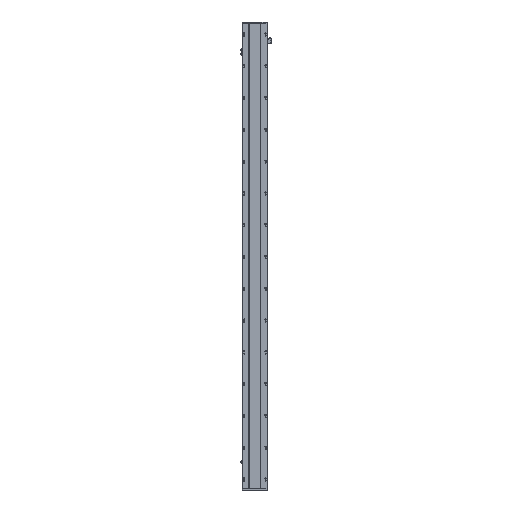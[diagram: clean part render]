
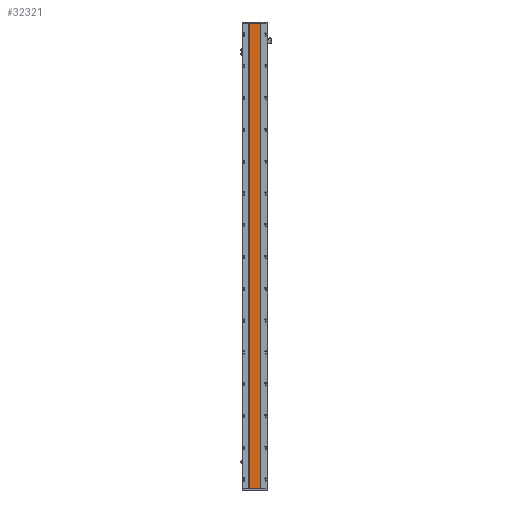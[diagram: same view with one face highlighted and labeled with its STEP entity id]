
A CAD part, front view. The second image highlights one B-rep face of the part: STEP entity #32321.
In plain terms, the highlighted planar face has unit normal (0, -1, 0).
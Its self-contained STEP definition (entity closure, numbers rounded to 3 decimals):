
#171 = CARTESIAN_POINT ( 'NONE',  ( 205.288, 16.9, 3160. ) ) ;
#894 = CARTESIAN_POINT ( 'NONE',  ( 205.288, 16.9, 0. ) ) ;
#1239 = ORIENTED_EDGE ( 'NONE', *, *, #33807, .F. ) ;
#3177 = VECTOR ( 'NONE', #26614, 1000. ) ;
#5539 = CARTESIAN_POINT ( 'NONE',  ( 205.288, 16.9, 3160. ) ) ;
#5948 = CARTESIAN_POINT ( 'NONE',  ( 129.288, 16.9, 0. ) ) ;
#15102 = DIRECTION ( 'NONE',  ( 1., 0., 0. ) ) ;
#15126 = CARTESIAN_POINT ( 'NONE',  ( 129.288, 16.9, 3160. ) ) ;
#15918 = LINE ( 'NONE', #15126, #48850 ) ;
#16058 = DIRECTION ( 'NONE',  ( 0., 1., 0. ) ) ;
#18672 = CARTESIAN_POINT ( 'NONE',  ( 129.288, 16.9, 3160. ) ) ;
#19656 = CARTESIAN_POINT ( 'NONE',  ( 205.288, 16.9, 0. ) ) ;
#19757 = LINE ( 'NONE', #19656, #3177 ) ;
#20081 = VERTEX_POINT ( 'NONE', #5948 ) ;
#20945 = ORIENTED_EDGE ( 'NONE', *, *, #21351, .T. ) ;
#21024 = EDGE_LOOP ( 'NONE', ( #20945, #38501, #1239, #34268 ) ) ;
#21351 = EDGE_CURVE ( 'NONE', #20081, #46487, #19757, .T. ) ;
#23293 = DIRECTION ( 'NONE',  ( -1., 0., 0. ) ) ;
#24831 = VERTEX_POINT ( 'NONE', #5539 ) ;
#26149 = DIRECTION ( 'NONE',  ( 0., 0., -1. ) ) ;
#26614 = DIRECTION ( 'NONE',  ( 1., 0., 0. ) ) ;
#27044 = CARTESIAN_POINT ( 'NONE',  ( 129.288, 16.9, 3160. ) ) ;
#28240 = AXIS2_PLACEMENT_3D ( 'NONE', #46297, #16058, #23293 ) ;
#29531 = DIRECTION ( 'NONE',  ( 0., 0., -1. ) ) ;
#32321 = ADVANCED_FACE ( 'NONE', ( #46551 ), #34310, .F. ) ;
#32589 = EDGE_CURVE ( 'NONE', #24831, #46487, #48622, .T. ) ;
#33807 = EDGE_CURVE ( 'NONE', #41511, #24831, #41719, .T. ) ;
#34268 = ORIENTED_EDGE ( 'NONE', *, *, #46301, .T. ) ;
#34310 = PLANE ( 'NONE',  #28240 ) ;
#35277 = VECTOR ( 'NONE', #15102, 1000. ) ;
#38501 = ORIENTED_EDGE ( 'NONE', *, *, #32589, .F. ) ;
#40944 = VECTOR ( 'NONE', #29531, 1000. ) ;
#41511 = VERTEX_POINT ( 'NONE', #27044 ) ;
#41719 = LINE ( 'NONE', #18672, #35277 ) ;
#46297 = CARTESIAN_POINT ( 'NONE',  ( 205.288, 16.9, 3160. ) ) ;
#46301 = EDGE_CURVE ( 'NONE', #41511, #20081, #15918, .T. ) ;
#46487 = VERTEX_POINT ( 'NONE', #894 ) ;
#46551 = FACE_OUTER_BOUND ( 'NONE', #21024, .T. ) ;
#48622 = LINE ( 'NONE', #171, #40944 ) ;
#48850 = VECTOR ( 'NONE', #26149, 1000. ) ;
